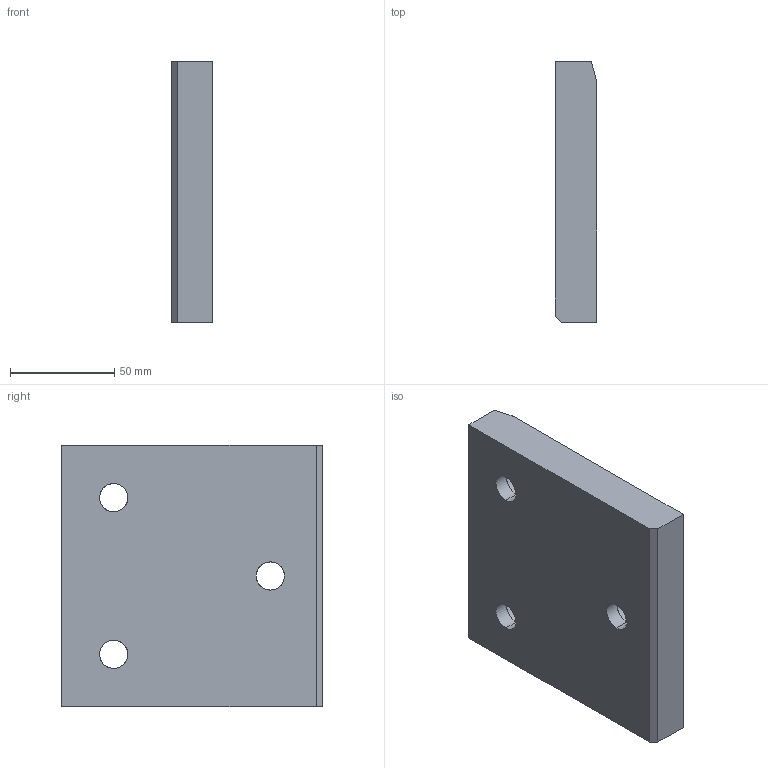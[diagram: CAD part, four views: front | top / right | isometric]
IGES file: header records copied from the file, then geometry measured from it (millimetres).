
Start section: START RECORD GO HERE.
Global section: file name: A915-125X125.igs; native system: DASSAULT SYSTEMES CATIA V5 R20 - www.3ds.com; preprocessor: CATIA Version 5 Release 20 ; author: Utente; organization: NB04-ASUS; date: 20200407.210546; units: millimetre
Bounding box: 20 x 125 x 125 mm (x, y, z)
Surface area: 42954.3 mm2 (no closed solid volume)
Topology: 0 solids, 0 shells, 30 faces, 138 edges, 138 vertices
Faces by surface type: revolution 19, extrusion 11
